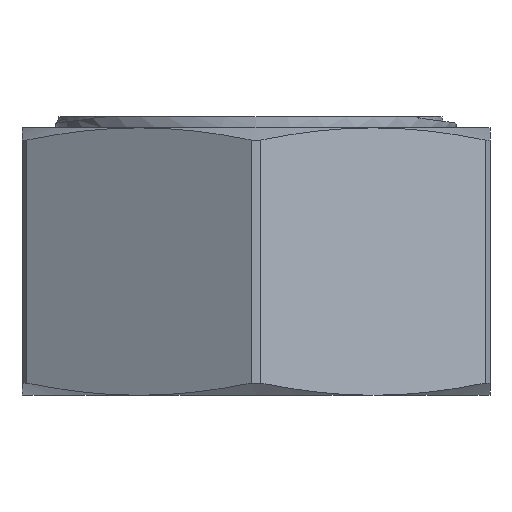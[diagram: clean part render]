
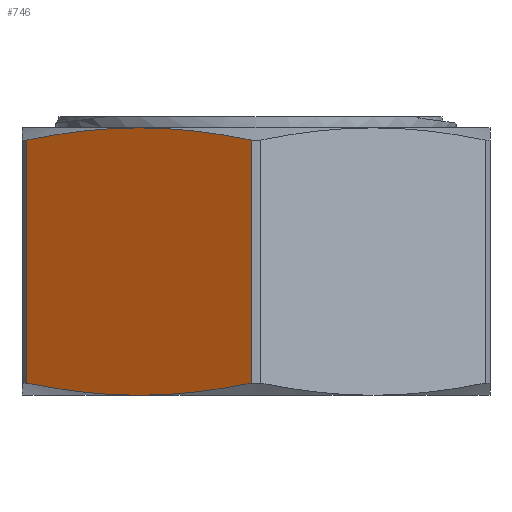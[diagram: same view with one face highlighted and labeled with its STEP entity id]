
A CAD part, left-side view. The second image highlights one B-rep face of the part: STEP entity #746.
In plain terms, the highlighted planar face has unit normal (-0.866, 0.5, 0).
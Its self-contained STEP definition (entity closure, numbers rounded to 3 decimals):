
#48=LINE('',#1397,#61);
#57=LINE('',#1423,#70);
#61=VECTOR('',#1038,1000.);
#70=VECTOR('',#1065,1000.);
#74=PLANE('',#860);
#254=ORIENTED_EDGE('',*,*,#394,.T.);
#255=ORIENTED_EDGE('',*,*,#398,.T.);
#256=ORIENTED_EDGE('',*,*,#458,.F.);
#257=ORIENTED_EDGE('',*,*,#474,.T.);
#258=ORIENTED_EDGE('',*,*,#475,.T.);
#259=ORIENTED_EDGE('',*,*,#471,.T.);
#394=EDGE_CURVE('',#511,#512,#587,.T.);
#398=EDGE_CURVE('',#512,#515,#589,.T.);
#458=EDGE_CURVE('',#567,#515,#48,.T.);
#471=EDGE_CURVE('',#576,#511,#57,.T.);
#474=EDGE_CURVE('',#567,#578,#601,.T.);
#475=EDGE_CURVE('',#578,#576,#602,.T.);
#511=VERTEX_POINT('',#1191);
#512=VERTEX_POINT('',#1192);
#515=VERTEX_POINT('',#1206);
#567=VERTEX_POINT('',#1396);
#576=VERTEX_POINT('',#1424);
#578=VERTEX_POINT('',#1433);
#587=B_SPLINE_CURVE_WITH_KNOTS('',3,(#1187,#1188,#1189,#1190),
 .UNSPECIFIED.,.F.,.F.,(4,4),(0.,0.006),
 .UNSPECIFIED.);
#589=B_SPLINE_CURVE_WITH_KNOTS('',3,(#1202,#1203,#1204,#1205),
 .UNSPECIFIED.,.F.,.F.,(4,4),(0.006,0.012),
 .UNSPECIFIED.);
#601=B_SPLINE_CURVE_WITH_KNOTS('',3,(#1429,#1430,#1431,#1432),
 .UNSPECIFIED.,.F.,.F.,(4,4),(0.,0.006),
 .UNSPECIFIED.);
#602=B_SPLINE_CURVE_WITH_KNOTS('',3,(#1434,#1435,#1436,#1437),
 .UNSPECIFIED.,.F.,.F.,(4,4),(0.006,0.012),
 .UNSPECIFIED.);
#630=EDGE_LOOP('',(#254,#255,#256,#257,#258,#259));
#682=FACE_BOUND('',#630,.T.);
#746=ADVANCED_FACE('',(#682),#74,.T.);
#860=AXIS2_PLACEMENT_3D('',#1428,#1069,#1070);
#1038=DIRECTION('',(0.,0.,1.));
#1065=DIRECTION('',(0.,0.,1.));
#1069=DIRECTION('',(-0.866,0.5,0.));
#1070=DIRECTION('',(-0.5,-0.866,0.));
#1187=CARTESIAN_POINT('',(-11.998,0.219,-1.046));
#1188=CARTESIAN_POINT('',(-11.03,1.896,-0.705));
#1189=CARTESIAN_POINT('',(-10.062,3.573,-0.5));
#1190=CARTESIAN_POINT('',(-9.093,5.25,-0.5));
#1191=CARTESIAN_POINT('',(-11.998,0.219,-1.046));
#1192=CARTESIAN_POINT('',(-9.093,5.25,-0.5));
#1202=CARTESIAN_POINT('',(-9.093,5.25,-0.5));
#1203=CARTESIAN_POINT('',(-8.125,6.927,-0.5));
#1204=CARTESIAN_POINT('',(-7.157,8.604,-0.705));
#1205=CARTESIAN_POINT('',(-6.189,10.281,-1.046));
#1206=CARTESIAN_POINT('',(-6.189,10.281,-1.046));
#1396=CARTESIAN_POINT('',(-6.189,10.281,-11.954));
#1397=CARTESIAN_POINT('',(-6.189,10.281,-30.));
#1423=CARTESIAN_POINT('',(-11.998,0.219,-30.));
#1424=CARTESIAN_POINT('',(-11.998,0.219,-11.954));
#1428=CARTESIAN_POINT('',(-6.189,10.281,-30.));
#1429=CARTESIAN_POINT('',(-6.189,10.281,-11.954));
#1430=CARTESIAN_POINT('',(-7.157,8.604,-12.295));
#1431=CARTESIAN_POINT('',(-8.125,6.927,-12.5));
#1432=CARTESIAN_POINT('',(-9.093,5.25,-12.5));
#1433=CARTESIAN_POINT('',(-9.093,5.25,-12.5));
#1434=CARTESIAN_POINT('',(-9.093,5.25,-12.5));
#1435=CARTESIAN_POINT('',(-10.062,3.573,-12.5));
#1436=CARTESIAN_POINT('',(-11.03,1.896,-12.295));
#1437=CARTESIAN_POINT('',(-11.998,0.219,-11.954));
